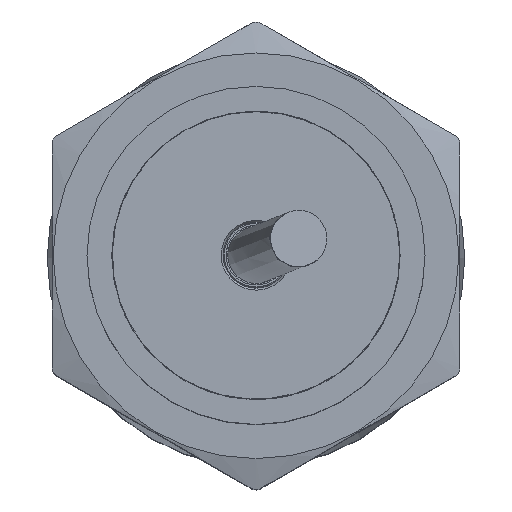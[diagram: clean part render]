
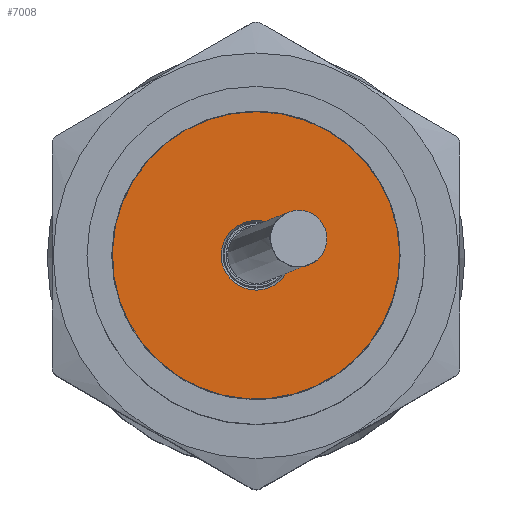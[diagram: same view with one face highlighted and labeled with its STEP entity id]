
A CAD part, top view. The second image highlights one B-rep face of the part: STEP entity #7008.
In plain terms, the highlighted planar face has unit normal (0, 0, 1).
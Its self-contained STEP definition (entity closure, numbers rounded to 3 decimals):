
#6981=CARTESIAN_POINT('',(0.,0.,176.));
#6982=DIRECTION('',(0.0,0.0,-1.0));
#6983=DIRECTION('',(-1.,-0.025,0.0));
#6984=AXIS2_PLACEMENT_3D('',#6981,#6982,#6983);
#6985=PLANE('',#6984);
#6986=CARTESIAN_POINT('',(14.446,0.358,176.));
#6987=VERTEX_POINT('',#6986);
#6988=CARTESIAN_POINT('',(0.,0.,176.));
#6989=DIRECTION('',(0.,0.,-1.0));
#6990=DIRECTION('',(-1.,-0.025,0.));
#6991=AXIS2_PLACEMENT_3D('',#6988,#6989,#6990);
#6992=CIRCLE('',#6991,14.45);
#6993=EDGE_CURVE('',#6987,#6987,#6992,.T.);
#6994=ORIENTED_EDGE('',*,*,#6993,.F.);
#6995=EDGE_LOOP('',(#6994));
#6996=FACE_OUTER_BOUND('',#6995,.T.);
#6997=CARTESIAN_POINT('',(3.499,0.087,176.));
#6998=VERTEX_POINT('',#6997);
#6999=CARTESIAN_POINT('',(0.,0.,176.));
#7000=DIRECTION('',(0.,0.,-1.));
#7001=DIRECTION('',(1.,0.025,0.));
#7002=AXIS2_PLACEMENT_3D('',#6999,#7000,#7001);
#7003=CIRCLE('',#7002,3.5);
#7004=EDGE_CURVE('',#6998,#6998,#7003,.T.);
#7005=ORIENTED_EDGE('',*,*,#7004,.T.);
#7006=EDGE_LOOP('',(#7005));
#7007=FACE_BOUND('',#7006,.T.);
#7008=ADVANCED_FACE('',(#6996,#7007),#6985,.F.);
